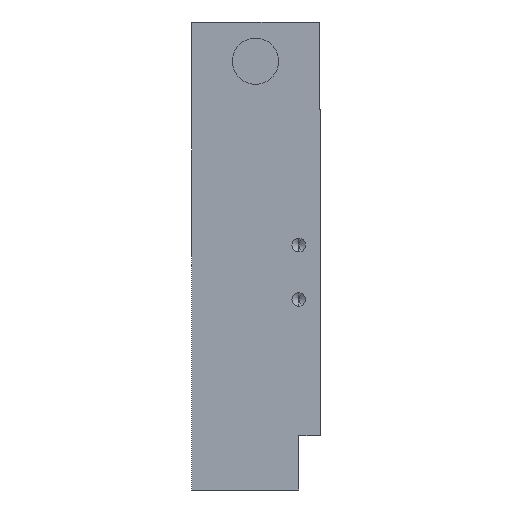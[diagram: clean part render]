
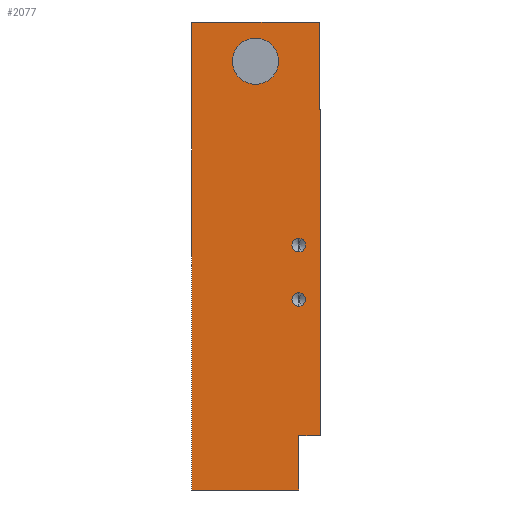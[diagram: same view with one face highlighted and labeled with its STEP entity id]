
A CAD part, left-side view. The second image highlights one B-rep face of the part: STEP entity #2077.
In plain terms, the highlighted planar face has unit normal (-1, 0, 0).
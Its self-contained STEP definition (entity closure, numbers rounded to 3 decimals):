
#17 = VECTOR ( 'NONE', #1167, 1000. ) ;
#47 = EDGE_CURVE ( 'NONE', #1531, #2833, #1806, .T. ) ;
#87 = CARTESIAN_POINT ( 'NONE',  ( -216.5, 11.95, 35.8 ) ) ;
#122 = EDGE_CURVE ( 'NONE', #2446, #2778, #502, .T. ) ;
#156 = DIRECTION ( 'NONE',  ( 0., -1., 0. ) ) ;
#187 = ORIENTED_EDGE ( 'NONE', *, *, #831, .F. ) ;
#194 = DIRECTION ( 'NONE',  ( 0., -1., 0. ) ) ;
#217 = AXIS2_PLACEMENT_3D ( 'NONE', #2910, #2632, #3544 ) ;
#308 = LINE ( 'NONE', #378, #2028 ) ;
#345 = AXIS2_PLACEMENT_3D ( 'NONE', #1371, #3545, #2911 ) ;
#361 = VECTOR ( 'NONE', #156, 1000. ) ;
#378 = CARTESIAN_POINT ( 'NONE',  ( -216.5, 4., -33. ) ) ;
#423 = VERTEX_POINT ( 'NONE', #2227 ) ;
#452 = CARTESIAN_POINT ( 'NONE',  ( -216.5, 11.95, 40.05 ) ) ;
#502 = LINE ( 'NONE', #1740, #1041 ) ;
#572 = VERTEX_POINT ( 'NONE', #1117 ) ;
#575 = DIRECTION ( 'NONE',  ( 0., 0., -1. ) ) ;
#589 = EDGE_CURVE ( 'NONE', #2015, #2937, #1025, .T. ) ;
#620 = DIRECTION ( 'NONE',  ( 0., 0., 1. ) ) ;
#635 = CARTESIAN_POINT ( 'NONE',  ( -216.5, 0.2, 27. ) ) ;
#663 = LINE ( 'NONE', #1258, #3944 ) ;
#688 = CARTESIAN_POINT ( 'NONE',  ( -216.5, 11.95, 31.55 ) ) ;
#709 = DIRECTION ( 'NONE',  ( -1., 0., 0. ) ) ;
#724 = EDGE_LOOP ( 'NONE', ( #948, #187 ) ) ;
#772 = VERTEX_POINT ( 'NONE', #3782 ) ;
#782 = CIRCLE ( 'NONE', #1628, 4.25 ) ;
#831 = EDGE_CURVE ( 'NONE', #2937, #2015, #782, .T. ) ;
#877 = FACE_OUTER_BOUND ( 'NONE', #3412, .T. ) ;
#948 = ORIENTED_EDGE ( 'NONE', *, *, #589, .F. ) ;
#974 = FACE_BOUND ( 'NONE', #1034, .T. ) ;
#986 = ORIENTED_EDGE ( 'NONE', *, *, #122, .F. ) ;
#988 = CARTESIAN_POINT ( 'NONE',  ( -216.5, 23.7, 43. ) ) ;
#1003 = DIRECTION ( 'NONE',  ( 0., 0., -1. ) ) ;
#1009 = ORIENTED_EDGE ( 'NONE', *, *, #3847, .T. ) ;
#1025 = CIRCLE ( 'NONE', #1421, 4.25 ) ;
#1034 = EDGE_LOOP ( 'NONE', ( #3303, #3675 ) ) ;
#1041 = VECTOR ( 'NONE', #194, 1000. ) ;
#1089 = EDGE_CURVE ( 'NONE', #2778, #1299, #1369, .T. ) ;
#1112 = LINE ( 'NONE', #2145, #2050 ) ;
#1117 = CARTESIAN_POINT ( 'NONE',  ( -216.5, 4., 3.25 ) ) ;
#1128 = AXIS2_PLACEMENT_3D ( 'NONE', #3116, #1289, #3765 ) ;
#1167 = DIRECTION ( 'NONE',  ( 0., 0., -1. ) ) ;
#1224 = CARTESIAN_POINT ( 'NONE',  ( -216.5, 11.95, 35.8 ) ) ;
#1226 = CARTESIAN_POINT ( 'NONE',  ( -216.5, 4., -8. ) ) ;
#1258 = CARTESIAN_POINT ( 'NONE',  ( -216.5, 23.7, 43. ) ) ;
#1289 = DIRECTION ( 'NONE',  ( -1., 0., 0. ) ) ;
#1294 = EDGE_CURVE ( 'NONE', #3406, #772, #3917, .T. ) ;
#1299 = VERTEX_POINT ( 'NONE', #635 ) ;
#1343 = CARTESIAN_POINT ( 'NONE',  ( -216.5, 0.2, 43. ) ) ;
#1353 = CARTESIAN_POINT ( 'NONE',  ( -216.5, 0.2, 27. ) ) ;
#1369 = LINE ( 'NONE', #1758, #17 ) ;
#1371 = CARTESIAN_POINT ( 'NONE',  ( -216.5, 23.7, 43. ) ) ;
#1372 = EDGE_CURVE ( 'NONE', #2966, #2681, #308, .T. ) ;
#1381 = EDGE_CURVE ( 'NONE', #423, #572, #3284, .T. ) ;
#1407 = VECTOR ( 'NONE', #575, 1000. ) ;
#1421 = AXIS2_PLACEMENT_3D ( 'NONE', #1224, #2088, #3702 ) ;
#1463 = CARTESIAN_POINT ( 'NONE',  ( -216.5, 4., -8. ) ) ;
#1488 = ORIENTED_EDGE ( 'NONE', *, *, #1089, .F. ) ;
#1531 = VERTEX_POINT ( 'NONE', #2010 ) ;
#1537 = CARTESIAN_POINT ( 'NONE',  ( -216.5, 0., -33. ) ) ;
#1543 = CARTESIAN_POINT ( 'NONE',  ( -216.5, 4., -43. ) ) ;
#1565 = CIRCLE ( 'NONE', #217, 1.25 ) ;
#1613 = CARTESIAN_POINT ( 'NONE',  ( -216.5, 0., 27. ) ) ;
#1628 = AXIS2_PLACEMENT_3D ( 'NONE', #87, #709, #1003 ) ;
#1654 = AXIS2_PLACEMENT_3D ( 'NONE', #1463, #1727, #3599 ) ;
#1688 = FACE_BOUND ( 'NONE', #724, .T. ) ;
#1727 = DIRECTION ( 'NONE',  ( -1., 0., 0. ) ) ;
#1740 = CARTESIAN_POINT ( 'NONE',  ( -216.5, 23.7, 43. ) ) ;
#1758 = CARTESIAN_POINT ( 'NONE',  ( -216.5, 0.2, 43. ) ) ;
#1765 = EDGE_CURVE ( 'NONE', #2966, #772, #2265, .T. ) ;
#1806 = CIRCLE ( 'NONE', #1654, 1.25 ) ;
#1896 = ORIENTED_EDGE ( 'NONE', *, *, #2374, .F. ) ;
#1921 = CARTESIAN_POINT ( 'NONE',  ( -216.5, 4., -9.25 ) ) ;
#2003 = CARTESIAN_POINT ( 'NONE',  ( -216.5, 23.7, -43. ) ) ;
#2010 = CARTESIAN_POINT ( 'NONE',  ( -216.5, 4., -6.75 ) ) ;
#2015 = VERTEX_POINT ( 'NONE', #688 ) ;
#2028 = VECTOR ( 'NONE', #2825, 1000. ) ;
#2050 = VECTOR ( 'NONE', #620, 1000. ) ;
#2077 = ADVANCED_FACE ( 'NONE', ( #974, #2504, #1688, #877 ), #2290, .F. ) ;
#2088 = DIRECTION ( 'NONE',  ( -1., 0., 0. ) ) ;
#2094 = ORIENTED_EDGE ( 'NONE', *, *, #2888, .F. ) ;
#2145 = CARTESIAN_POINT ( 'NONE',  ( -216.5, 0., 43. ) ) ;
#2184 = EDGE_LOOP ( 'NONE', ( #2729, #3995 ) ) ;
#2227 = CARTESIAN_POINT ( 'NONE',  ( -216.5, 4., 0.75 ) ) ;
#2265 = LINE ( 'NONE', #1543, #1407 ) ;
#2290 = PLANE ( 'NONE',  #345 ) ;
#2318 = CARTESIAN_POINT ( 'NONE',  ( -216.5, 4., -33. ) ) ;
#2337 = ORIENTED_EDGE ( 'NONE', *, *, #1294, .T. ) ;
#2349 = AXIS2_PLACEMENT_3D ( 'NONE', #1226, #3663, #2422 ) ;
#2374 = EDGE_CURVE ( 'NONE', #3406, #2446, #663, .T. ) ;
#2380 = ORIENTED_EDGE ( 'NONE', *, *, #1765, .F. ) ;
#2422 = DIRECTION ( 'NONE',  ( 0., 0., 1. ) ) ;
#2429 = DIRECTION ( 'NONE',  ( 0., 0., 1. ) ) ;
#2446 = VERTEX_POINT ( 'NONE', #988 ) ;
#2496 = CARTESIAN_POINT ( 'NONE',  ( -216.5, 23.7, -43. ) ) ;
#2504 = FACE_BOUND ( 'NONE', #2184, .T. ) ;
#2632 = DIRECTION ( 'NONE',  ( -1., 0., 0. ) ) ;
#2681 = VERTEX_POINT ( 'NONE', #1537 ) ;
#2729 = ORIENTED_EDGE ( 'NONE', *, *, #47, .F. ) ;
#2778 = VERTEX_POINT ( 'NONE', #1343 ) ;
#2781 = DIRECTION ( 'NONE',  ( 0., -1., 0. ) ) ;
#2813 = VERTEX_POINT ( 'NONE', #1613 ) ;
#2825 = DIRECTION ( 'NONE',  ( 0., -1., 0. ) ) ;
#2833 = VERTEX_POINT ( 'NONE', #1921 ) ;
#2888 = EDGE_CURVE ( 'NONE', #1299, #2813, #3004, .T. ) ;
#2910 = CARTESIAN_POINT ( 'NONE',  ( -216.5, 4., 2. ) ) ;
#2911 = DIRECTION ( 'NONE',  ( 0., 0., -1. ) ) ;
#2937 = VERTEX_POINT ( 'NONE', #452 ) ;
#2966 = VERTEX_POINT ( 'NONE', #2318 ) ;
#2969 = EDGE_CURVE ( 'NONE', #572, #423, #1565, .T. ) ;
#3004 = LINE ( 'NONE', #1353, #361 ) ;
#3099 = ORIENTED_EDGE ( 'NONE', *, *, #1372, .T. ) ;
#3116 = CARTESIAN_POINT ( 'NONE',  ( -216.5, 4., 2. ) ) ;
#3284 = CIRCLE ( 'NONE', #1128, 1.25 ) ;
#3303 = ORIENTED_EDGE ( 'NONE', *, *, #2969, .F. ) ;
#3406 = VERTEX_POINT ( 'NONE', #2003 ) ;
#3412 = EDGE_LOOP ( 'NONE', ( #2380, #3099, #1009, #2094, #1488, #986, #1896, #2337 ) ) ;
#3516 = CIRCLE ( 'NONE', #2349, 1.25 ) ;
#3544 = DIRECTION ( 'NONE',  ( 0., 0., 1. ) ) ;
#3545 = DIRECTION ( 'NONE',  ( 1., 0., 0. ) ) ;
#3586 = VECTOR ( 'NONE', #2781, 1000. ) ;
#3599 = DIRECTION ( 'NONE',  ( 0., 0., 1. ) ) ;
#3663 = DIRECTION ( 'NONE',  ( -1., 0., 0. ) ) ;
#3675 = ORIENTED_EDGE ( 'NONE', *, *, #1381, .F. ) ;
#3702 = DIRECTION ( 'NONE',  ( 0., 0., -1. ) ) ;
#3744 = EDGE_CURVE ( 'NONE', #2833, #1531, #3516, .T. ) ;
#3765 = DIRECTION ( 'NONE',  ( 0., 0., 1. ) ) ;
#3782 = CARTESIAN_POINT ( 'NONE',  ( -216.5, 4., -43. ) ) ;
#3847 = EDGE_CURVE ( 'NONE', #2681, #2813, #1112, .T. ) ;
#3917 = LINE ( 'NONE', #2496, #3586 ) ;
#3944 = VECTOR ( 'NONE', #2429, 1000. ) ;
#3995 = ORIENTED_EDGE ( 'NONE', *, *, #3744, .F. ) ;
